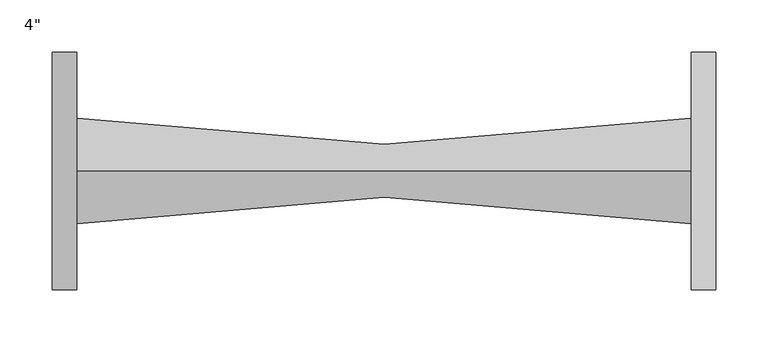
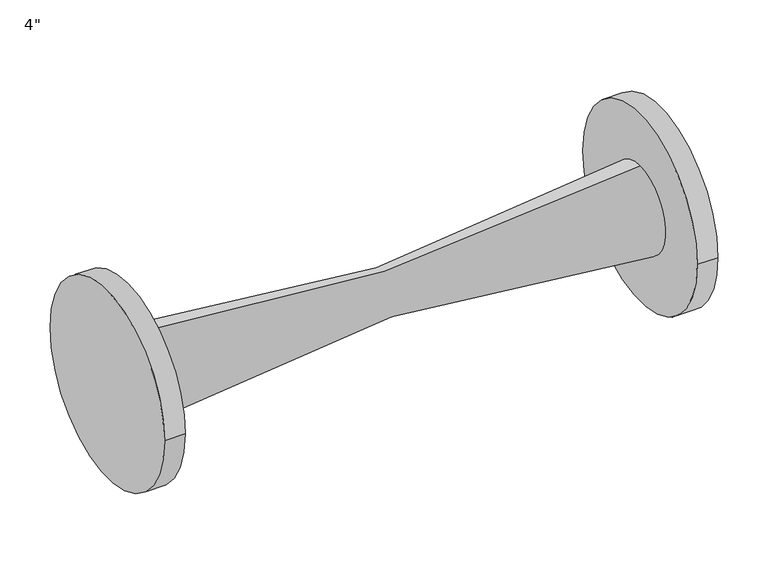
"""IFC4 building model written with IfcOpenShell, lengths in millimetres: valve geometry."""

from ifc_helpers import new_model, si_unit, point, frame, frame_2d, origin, place, context, project, spatial, circle_curve, ellipse_curve, trimmed, segment, composite_curve, outline, extrude, source, transform, mapped, element, save
from ifc_brep_helpers import plane_surface, revolved_surface, advanced_brep


def valve_d84e737f(model_context):
    return source(origin(), model_context, "Body", "SolidModel", [
        advanced_brep(
        [(4240.9418919, -380.2814225, 308.8404204), (4240.9418919, -380.2814225, 359.6404204), (4240.9418919, -380.2814225, 258.0404204), (4831.4918919, -380.2814225, 258.0404204), (4831.4918919, -380.2814225, 359.6404204), (4831.4918919, -380.2814225, 308.8404204)],
        [
            (0, 1),
            (1, 2, circle_curve(frame((4240.9418919, -380.2814225, 308.8404204), z_axis=(-1.0, 0.0, 0.0), x_axis=(0.0, 0.0, 1.0)), 50.8)),
            (2, 0),
            (2, 1, circle_curve(frame((4240.9418919, -380.2814225, 308.8404204), z_axis=(-1.0, 0.0, 0.0), x_axis=(0.0, 0.0, 1.0)), 50.8)),
            (3, 4, circle_curve(frame((4831.4918919, -380.2814225, 308.8404204), z_axis=(1.0, 0.0, 0.0), x_axis=(0.0, 0.0, 1.0)), 50.8)),
            (4, 5),
            (5, 3),
            (4, 3, circle_curve(frame((4831.4918919, -380.2814225, 308.8404204), z_axis=(1.0, 0.0, 0.0), x_axis=(0.0, 0.0, 1.0)), 50.8)),
            (1, 4, circle_curve(frame((4536.2168919, -380.2814225, 2075.9129475), z_axis=(0.0, -1.0, 0.0), x_axis=(1.0, 0.0, 0.0)), 1741.4875)),
            (3, 2, circle_curve(frame((4536.2168919, -380.2814225, -1458.2321066), z_axis=(0.0, -1.0, 0.0), x_axis=(1.0, 0.0, 0.0)), 1741.4875)),
        ],
        [
            plane_surface(frame((4240.9418919, -380.2814225, 308.8404204), z_axis=(-1.0, 0.0, 0.0), x_axis=(0.0, 0.0, 1.0))),
            plane_surface(frame((4831.4918919, -380.2814225, 308.8404204), z_axis=(1.0, 0.0, 0.0), x_axis=(0.0, 0.0, 1.0))),
            revolved_surface(trimmed(ellipse_curve(frame((4536.2168919, -380.2814225, 2075.9129475), z_axis=(0.0, 1.0, 0.0), x_axis=(1.0, 0.0, 0.0)), 1741.4875, 1741.4875), [point((4831.4918919, -380.2814225, 359.6404204))], [point((4240.9418919, -380.2814225, 359.6404204))], True, "CARTESIAN"), (4240.9418919, -380.2814225, 308.8404204), (-1.0, 0.0, 0.0)),
        ],
        [
            (0, [[1, 2, 3]]),
            (0, [[-3, 4, -1]]),
            (1, [[5, 6, 7]]),
            (1, [[8, -7, -6]]),
            (2, [[-2, 9, -5, 10]]),
            (2, [[-4, -10, -8, -9]]),
        ],
    ),
        extrude(outline(composite_curve([segment(trimmed(circle_curve(frame_2d((-380.2814225, 308.8404204)), 114.3), [point((-265.9814225, 308.8404204))], [point((-494.5814225, 308.8404204))], False, "CARTESIAN"), True, "CONTINUOUS"), segment(trimmed(circle_curve(frame_2d((-380.2814225, 308.8404204)), 114.3), [point((-494.5814225, 308.8404204))], [point((-265.9814225, 308.8404204))], False, "CARTESIAN"), True, "CONTINUOUS")], self_intersect=False)), frame((4831.4918919, 0.0, 0.0), z_axis=(1.0, 0.0, 0.0), x_axis=(0.0, 1.0, 0.0)), (0.0, 0.0, 1.0), 23.8125),
        extrude(outline(composite_curve([segment(trimmed(circle_curve(frame_2d((-380.2814225, 308.8204584)), 114.3), [point((-265.9814225, 308.8204584))], [point((-494.5814225, 308.8204584))], False, "CARTESIAN"), True, "CONTINUOUS"), segment(trimmed(circle_curve(frame_2d((-380.2814225, 308.8204584)), 114.3), [point((-494.5814225, 308.8204584))], [point((-265.9814225, 308.8204584))], False, "CARTESIAN"), True, "CONTINUOUS")], self_intersect=False)), frame((4217.1293919, 0.0, 0.0), z_axis=(1.0, 0.0, 0.0), x_axis=(0.0, 1.0, 0.0)), (0.0, 0.0, 1.0), 23.8125),
    ])


if __name__ == "__main__":
    model = new_model("IFC4")
    model_context = context("Model", 3, world=origin())
    ifc_project = project(units=[si_unit("LENGTHUNIT", "METRE", prefix="MILLI")], contexts=[model_context])
    site = spatial("IfcSite", under=ifc_project)
    building = spatial("IfcBuilding", under=site)
    placement = place(None, origin())
    valve_shape = valve_d84e737f(model_context)
    element("IfcValve", 1, ObjectType="VenturI Valve : 4\"", at=placement, inside=building, context=model_context, shape_type="MappedRepresentation", body=[
        mapped(valve_shape, transform((0.0, 0.0, 0.0), x_axis=(1.0, 0.0, 0.0), y_axis=(0.0, 1.0, 0.0), z_axis=(0.0, 0.0, 1.0))),
    ])
    save(model, "model.ifc")
